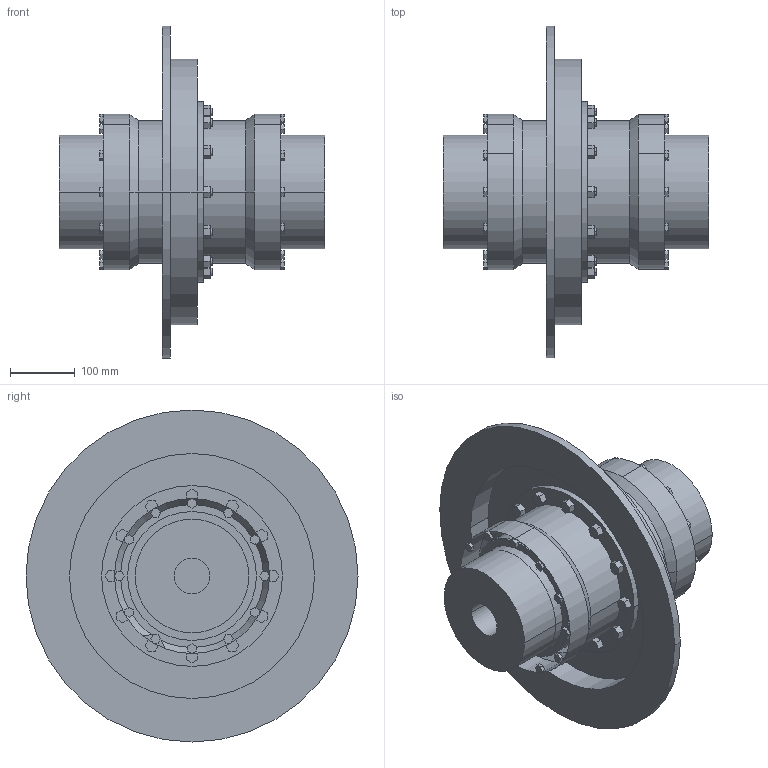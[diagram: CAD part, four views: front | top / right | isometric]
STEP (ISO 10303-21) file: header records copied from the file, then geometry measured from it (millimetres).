
FILE_DESCRIPTION((''),'2;1');
FILE_NAME('A19727400-0_ASM','2019-05-23T',('AB_Roschiwal'),('RENK AG'),'PRO/ENGINEER BY PARAMETRIC TECHNOLOGY CORPORATION, 2015440','PRO/ENGINEER BY PARAMETRIC TECHNOLOGY CORPORATION, 2015440','');
FILE_SCHEMA(('CONFIG_CONTROL_DESIGN'));
Length unit declared in the file: millimetre
Products named in the file (4): SBKT110_GEHAEUSE; SBKT110_NABE; SBKT110_BREMSSCHEIBE; A19727400-0_ASM
Assembly tree (4 placements, depth 2):
  A19727400-0_ASM
    SBKT110_GEHAEUSE
    SBKT110_NABE  x2
    SBKT110_BREMSSCHEIBE
Bounding box: 411 x 514 x 514 mm (x, y, z)
Volume: 12998814.1 mm3; surface area: 1264894.7 mm2
Topology: 4 solids, 4 shells, 470 faces, 1272 edges, 812 vertices
Faces by surface type: plane 370, cylinder 96, cone 4
Entity records: 13708 total; most frequent: CARTESIAN_POINT 2366, ORIENTED_EDGE 2304, DIRECTION 2280, EDGE_CURVE 1152, VECTOR 956, LINE 956, VERTEX_POINT 748, AXIS2_PLACEMENT_3D 662
